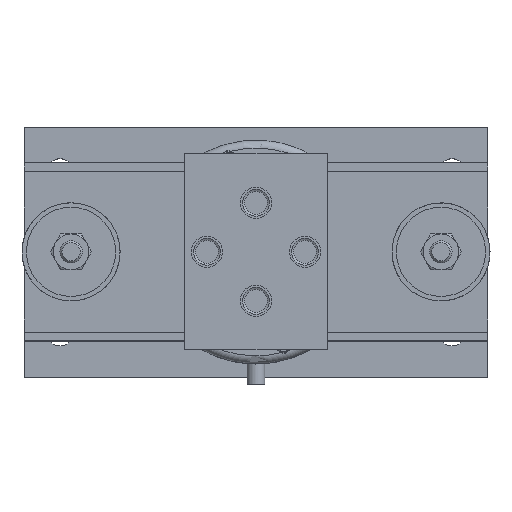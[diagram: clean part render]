
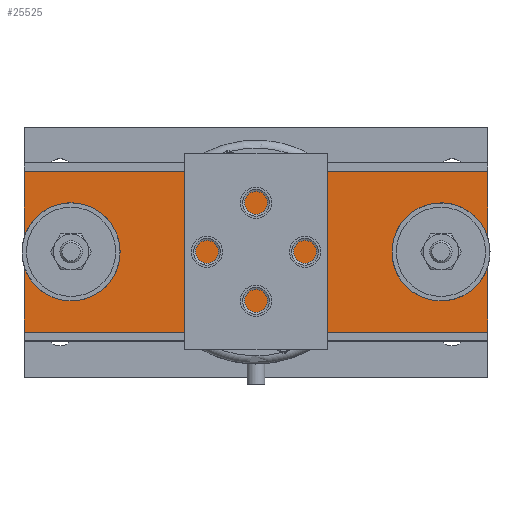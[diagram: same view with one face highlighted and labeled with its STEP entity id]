
A CAD part, top view. The second image highlights one B-rep face of the part: STEP entity #25525.
In plain terms, the highlighted planar face has unit normal (0, 0, 1).
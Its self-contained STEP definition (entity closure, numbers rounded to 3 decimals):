
#1078=LINE('',#40371,#2562);
#1079=LINE('',#40373,#2563);
#1090=LINE('',#40391,#2574);
#1091=LINE('',#40394,#2575);
#1096=LINE('',#40402,#2580);
#1097=LINE('',#40403,#2581);
#2562=VECTOR('',#31904,1.84);
#2563=VECTOR('',#31905,1.84);
#2574=VECTOR('',#31922,13.);
#2575=VECTOR('',#31925,13.);
#2580=VECTOR('',#31934,1.84);
#2581=VECTOR('',#31935,1.84);
#4476=PLANE('',#27588);
#5527=FACE_BOUND('',#8095,.T.);
#6245=FACE_OUTER_BOUND('',#8094,.T.);
#8094=EDGE_LOOP('',(#18603,#18604,#18605,#18606,#18607,#18608,#18609,#18610,
#18611));
#8095=EDGE_LOOP('',(#18612));
#9797=CIRCLE('',#27143,1.375);
#9823=CIRCLE('',#27182,1.375);
#9824=CIRCLE('',#27183,1.375);
#9836=CIRCLE('',#27209,0.525);
#11165=VERTEX_POINT('',#38961);
#11166=VERTEX_POINT('',#38963);
#11190=VERTEX_POINT('',#39025);
#11191=VERTEX_POINT('',#39026);
#11192=VERTEX_POINT('',#39030);
#11220=VERTEX_POINT('',#39106);
#11519=VERTEX_POINT('',#40369);
#11520=VERTEX_POINT('',#40372);
#11524=VERTEX_POINT('',#40389);
#11525=VERTEX_POINT('',#40393);
#13615=EDGE_CURVE('',#11165,#11166,#9797,.T.);
#13643=EDGE_CURVE('',#11192,#11190,#9823,.T.);
#13644=EDGE_CURVE('',#11191,#11192,#9824,.T.);
#13677=EDGE_CURVE('',#11220,#11220,#9836,.T.);
#14172=EDGE_CURVE('',#11165,#11519,#1078,.T.);
#14173=EDGE_CURVE('',#11520,#11166,#1079,.T.);
#14184=EDGE_CURVE('',#11524,#11519,#1090,.T.);
#14185=EDGE_CURVE('',#11525,#11520,#1091,.T.);
#14190=EDGE_CURVE('',#11191,#11525,#1096,.T.);
#14191=EDGE_CURVE('',#11524,#11190,#1097,.T.);
#18603=ORIENTED_EDGE('',*,*,#13615,.F.);
#18604=ORIENTED_EDGE('',*,*,#14172,.T.);
#18605=ORIENTED_EDGE('',*,*,#14184,.F.);
#18606=ORIENTED_EDGE('',*,*,#14191,.T.);
#18607=ORIENTED_EDGE('',*,*,#13643,.F.);
#18608=ORIENTED_EDGE('',*,*,#13644,.F.);
#18609=ORIENTED_EDGE('',*,*,#14190,.T.);
#18610=ORIENTED_EDGE('',*,*,#14185,.T.);
#18611=ORIENTED_EDGE('',*,*,#14173,.T.);
#18612=ORIENTED_EDGE('',*,*,#13677,.F.);
#25525=ADVANCED_FACE('',(#6245,#5527),#4476,.T.);
#27143=AXIS2_PLACEMENT_3D('',#38964,#30771,#30772);
#27182=AXIS2_PLACEMENT_3D('',#39031,#30851,#30852);
#27183=AXIS2_PLACEMENT_3D('',#39032,#30853,#30854);
#27209=AXIS2_PLACEMENT_3D('',#39107,#30926,#30927);
#27588=AXIS2_PLACEMENT_3D('',#40405,#31937,#31938);
#30771=DIRECTION('center_axis',(0.,0.,
1.));
#30772=DIRECTION('ref_axis',(0.985,-0.173,0.));
#30851=DIRECTION('center_axis',(0.,0.,
1.));
#30852=DIRECTION('ref_axis',(0.256,0.967,0.));
#30853=DIRECTION('center_axis',(0.,0.,
1.));
#30854=DIRECTION('ref_axis',(0.256,0.967,0.));
#30926=DIRECTION('center_axis',(0.,0.,
1.));
#30927=DIRECTION('ref_axis',(-0.89,-0.456,0.));
#31904=DIRECTION('',(0.,-1.,0.));
#31905=DIRECTION('',(0.,-1.,0.));
#31922=DIRECTION('',(-1.,0.,0.));
#31925=DIRECTION('',(-1.,0.,0.));
#31934=DIRECTION('',(0.,1.,0.));
#31935=DIRECTION('',(0.,1.,0.));
#31937=DIRECTION('center_axis',(0.,0.,
1.));
#31938=DIRECTION('ref_axis',(-1.,0.,0.));
#38961=CARTESIAN_POINT('',(-5.765,-0.76,8.125));
#38963=CARTESIAN_POINT('',(-5.765,0.06,8.125));
#38964=CARTESIAN_POINT('Origin',(-4.452,-0.35,8.125));
#39025=CARTESIAN_POINT('',(7.235,-0.76,8.125));
#39026=CARTESIAN_POINT('',(7.235,0.06,8.125));
#39030=CARTESIAN_POINT('',(5.571,-1.68,8.125));
#39031=CARTESIAN_POINT('Origin',(5.923,-0.35,8.125));
#39032=CARTESIAN_POINT('Origin',(5.923,-0.35,8.125));
#39106=CARTESIAN_POINT('',(1.202,-0.111,8.125));
#39107=CARTESIAN_POINT('Origin',(0.735,-0.35,8.125));
#40369=CARTESIAN_POINT('',(-5.765,-2.6,8.125));
#40371=CARTESIAN_POINT('',(-5.765,-2.6,8.125));
#40372=CARTESIAN_POINT('',(-5.765,1.9,8.125));
#40373=CARTESIAN_POINT('',(-5.765,-2.6,8.125));
#40389=CARTESIAN_POINT('',(7.235,-2.6,8.125));
#40391=CARTESIAN_POINT('',(0.735,-2.6,8.125));
#40393=CARTESIAN_POINT('',(7.235,1.9,8.125));
#40394=CARTESIAN_POINT('',(0.735,1.9,8.125));
#40402=CARTESIAN_POINT('',(7.235,-2.6,8.125));
#40403=CARTESIAN_POINT('',(7.235,-2.6,8.125));
#40405=CARTESIAN_POINT('Origin',(0.735,1.9,8.125));
